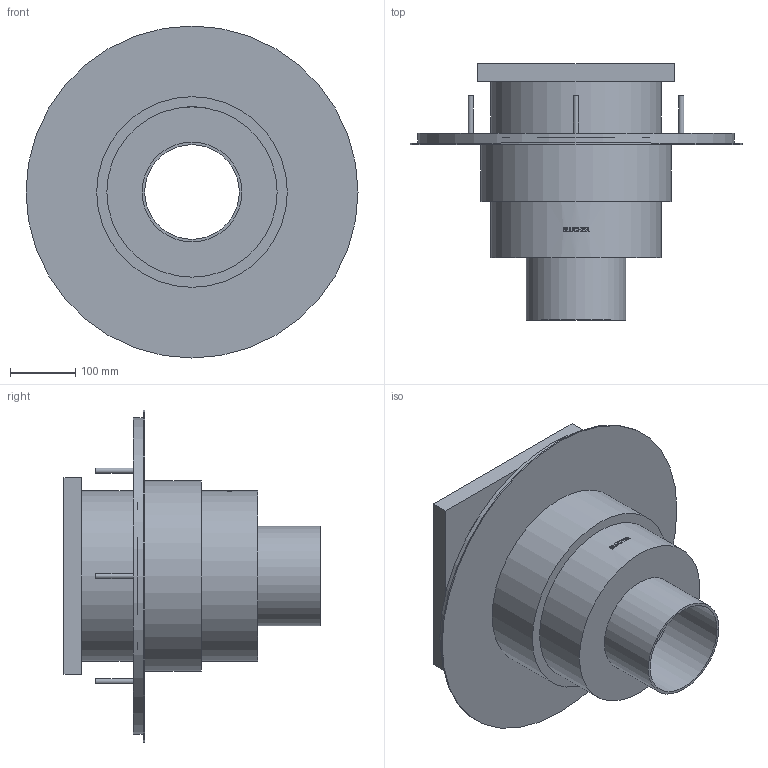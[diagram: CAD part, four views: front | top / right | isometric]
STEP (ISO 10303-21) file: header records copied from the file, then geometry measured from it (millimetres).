
FILE_DESCRIPTION((''),'2;1');
FILE_NAME('C:\Drawings\3D_CAD_Models\Blucher\BFD_Floor Drains_Complete_091119\BFD-100\WebsiteFiles\3D\STEP\BFD-136.stp','2009-11-24T16:14:44',('hofmansp'),(''),'Autodesk Inventor 2010','Autodesk Inventor 2010','');
FILE_SCHEMA(('AUTOMOTIVE_DESIGN { 1 0 10303 214 1 1 1 1 }'));
Length unit declared in the file: inch
Products named in the file (1): BFD-136
Bounding box: 507 x 391 x 507 mm (x, y, z)
Volume: 4331912 mm3; surface area: 1066427.5 mm2
Topology: 1 solids, 1 shells, 134 faces, 329 edges, 220 vertices
Faces by surface type: plane 77, bspline 34, cylinder 23
Full cylindrical faces by diameter (mm): 8 x4, 144.4 x1, 152.4 x1, 252 x1, 260 x2, 291 x1, 479 x1, 483 x1, 507 x1
Entity records: 14495 total; most frequent: CARTESIAN_POINT 11611, ORIENTED_EDGE 628, DIRECTION 464, EDGE_CURVE 314, VERTEX_POINT 218, EDGE_LOOP 172, AXIS2_PLACEMENT_3D 162, VECTOR 140
